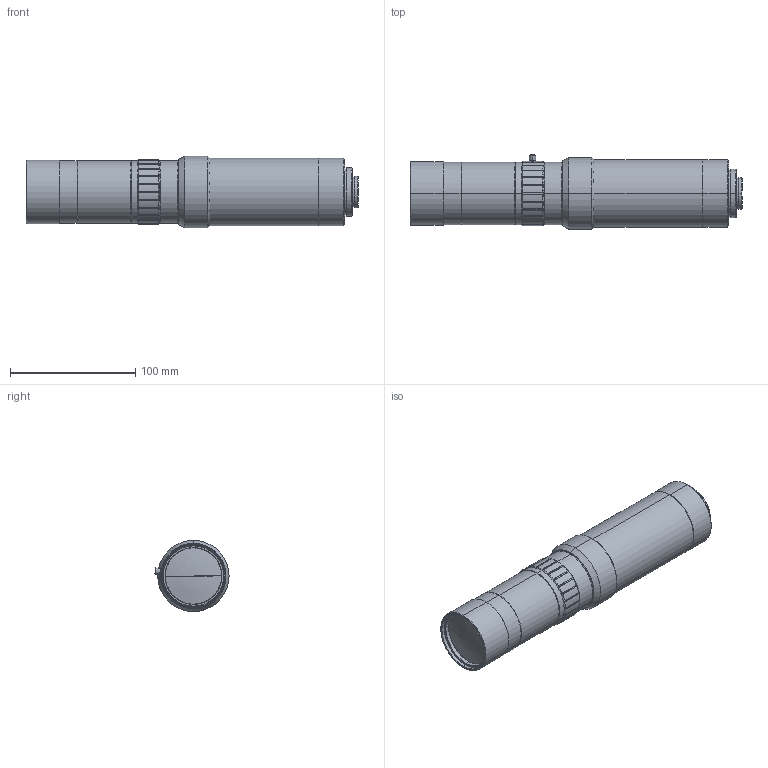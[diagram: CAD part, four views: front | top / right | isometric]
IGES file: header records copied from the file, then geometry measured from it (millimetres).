
Start section: SolidWorks IGES file using analytic representation for surfaces
Global section: file name: C:\Users\miura_vst\Desktop\3D\VS-TCM1-130_S\VS-TCM1-130_S.IGS; native system: SolidWorks 2014; preprocessor: SolidWorks 2014; author: miura_vst; date: 140821.092416; units: millimetre
Bounding box: 265.47 x 59.29 x 57 mm (x, y, z)
Surface area: 50459.4 mm2 (no closed solid volume)
Topology: 0 solids, 0 shells, 203 faces, 2640 edges, 2639 vertices
Faces by surface type: revolution 114, bspline 89
